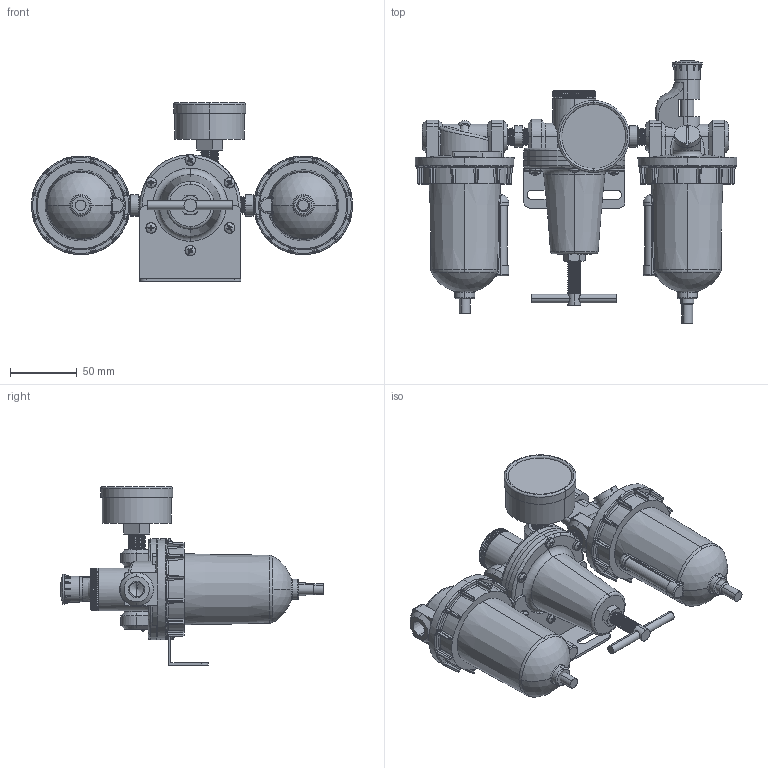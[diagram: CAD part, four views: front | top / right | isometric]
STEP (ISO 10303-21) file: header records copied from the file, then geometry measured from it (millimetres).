
FILE_DESCRIPTION (( 'STEP AP203' ), '1' );
FILE_NAME ('C628W-02#YB#.STEP', '2016-01-14T17:33:09', ( '' ), ( '' ), 'SwSTEP 2.0', 'SolidWorks 2014', '' );
FILE_SCHEMA (( 'CONFIG_CONTROL_DESIGN' ));
Length unit declared in the file: millimetre
Products named in the file (25): 50-P-AD=1-4PT.SLDPRT; F602W-02#YB#; L606-W-06-4; 1-4-圓; R119-02-7; R119-02-4; R119-02-3; R119-02-5; KW15Y57; L606-W-06-3; R119-02-1; 50-P-AD=1-4PT-1; R119-02; 50-P-AD=1-4PT-2; R119-02-2; ISO 7045 - M4 x 16; F602-02-1; C628W-02#YB#; L606-W-06-5; L606-W-02-下半部; R119-02-6; L606-W-02; L606W-02; L606W-02-刻度計; L606-W-04-1
Assembly tree (33 placements, depth 4):
  C628W-02#YB#
    R119-02
      R119-02-1
      R119-02-2
      R119-02-3
      R119-02-4
      ISO 7045 - M4 x 16  x6
      R119-02-5
      R119-02-6
      R119-02-7
      KW15Y57
      50-P-AD=1-4PT.SLDPRT
        50-P-AD=1-4PT-1
        50-P-AD=1-4PT-2
    L606W-02
      L606-W-06-5
      L606-W-06-4
      L606-W-06-3  x2
      L606-W-04-1
      L606-W-02
      L606W-02-刻度計
    1-4-圓  x2
    F602W-02#YB#
      F602-02-1
      L606-W-06-5
      L606-W-02-下半部
      L606W-02-刻度計
Bounding box: 241 x 197 x 134 mm (x, y, z)
Volume: 864123.4 mm3; surface area: 165066.4 mm2
Topology: 30 solids, 30 shells, 1701 faces, 4209 edges, 2518 vertices
Faces by surface type: plane 564, cylinder 386, cone 325, bspline 233, torus 115, sphere 78
Entity records: 62017 total; most frequent: CARTESIAN_POINT 27503, ORIENTED_EDGE 7122, DIRECTION 6122, EDGE_CURVE 3561, AXIS2_PLACEMENT_3D 2529, VERTEX_POINT 2157, EDGE_LOOP 1510, ADVANCED_FACE 1465
